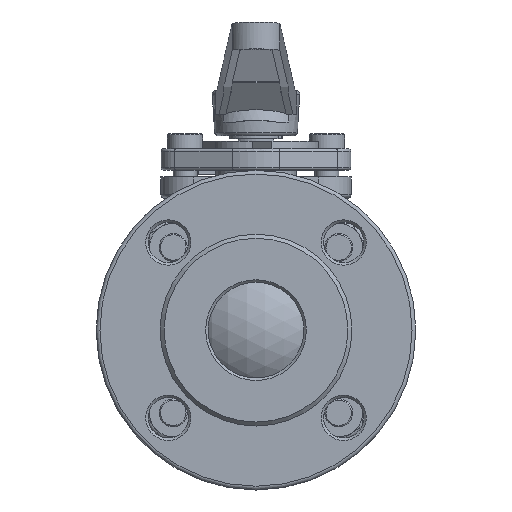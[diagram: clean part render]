
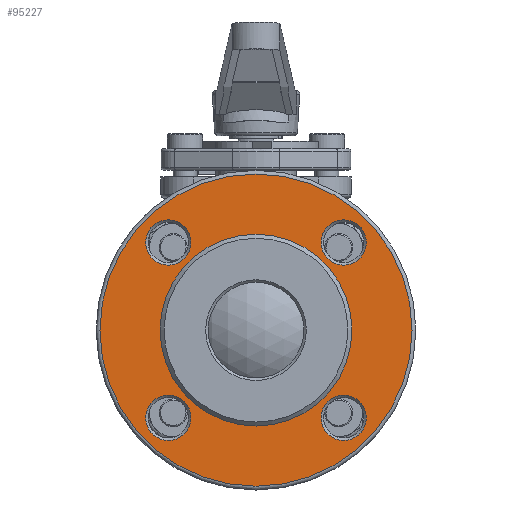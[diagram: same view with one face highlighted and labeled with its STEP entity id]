
A CAD part, left-side view. The second image highlights one B-rep face of the part: STEP entity #95227.
In plain terms, the highlighted planar face has unit normal (-1, 0, 0).
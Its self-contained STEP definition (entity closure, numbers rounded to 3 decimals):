
#95131 = TOROIDAL_SURFACE('',#95132,62.,1.5);
#95132 = AXIS2_PLACEMENT_3D('',#95133,#95134,#95135);
#95133 = CARTESIAN_POINT('',(-80.6,-31.8,-31.8));
#95134 = DIRECTION('',(-1.,0.,0.));
#95135 = DIRECTION('',(0.,0.,-1.));
#95168 = EDGE_CURVE('',#95169,#95169,#95171,.T.);
#95169 = VERTEX_POINT('',#95170);
#95170 = CARTESIAN_POINT('',(-82.1,-31.8,-93.8));
#95171 = SURFACE_CURVE('',#95172,(#95177,#95184),.PCURVE_S1.);
#95172 = CIRCLE('',#95173,62.);
#95173 = AXIS2_PLACEMENT_3D('',#95174,#95175,#95176);
#95174 = CARTESIAN_POINT('',(-82.1,-31.8,-31.8));
#95175 = DIRECTION('',(-1.,0.,0.));
#95176 = DIRECTION('',(0.,0.,-1.));
#95177 = PCURVE('',#95131,#95178);
#95178 = DEFINITIONAL_REPRESENTATION('',(#95179),#95183);
#95179 = LINE('',#95180,#95181);
#95180 = CARTESIAN_POINT('',(0.,7.854));
#95181 = VECTOR('',#95182,1.);
#95182 = DIRECTION('',(1.,0.));
#95183 = ( GEOMETRIC_REPRESENTATION_CONTEXT(2) 
PARAMETRIC_REPRESENTATION_CONTEXT() REPRESENTATION_CONTEXT('2D SPACE',''
  ) );
#95184 = PCURVE('',#95185,#95190);
#95185 = PLANE('',#95186);
#95186 = AXIS2_PLACEMENT_3D('',#95187,#95188,#95189);
#95187 = CARTESIAN_POINT('',(-82.1,-31.8,30.2));
#95188 = DIRECTION('',(1.,0.,0.));
#95189 = DIRECTION('',(0.,0.,1.));
#95190 = DEFINITIONAL_REPRESENTATION('',(#95191),#95199);
#95191 = ( BOUNDED_CURVE() B_SPLINE_CURVE(2,(#95192,#95193,#95194,#95195
    ,#95196,#95197,#95198),.UNSPECIFIED.,.T.,.F.) 
B_SPLINE_CURVE_WITH_KNOTS((1,2,2,2,2,1),(-2.094,0.,
    2.094,4.189,6.283,8.378),
.UNSPECIFIED.) CURVE() GEOMETRIC_REPRESENTATION_ITEM() 
RATIONAL_B_SPLINE_CURVE((1.,0.5,1.,0.5,1.,0.5,1.)) REPRESENTATION_ITEM(
  '') );
#95192 = CARTESIAN_POINT('',(-124.,0.));
#95193 = CARTESIAN_POINT('',(-124.,107.387));
#95194 = CARTESIAN_POINT('',(-31.,53.694));
#95195 = CARTESIAN_POINT('',(62.,0.));
#95196 = CARTESIAN_POINT('',(-31.,-53.694));
#95197 = CARTESIAN_POINT('',(-124.,-107.387));
#95198 = CARTESIAN_POINT('',(-124.,0.));
#95199 = ( GEOMETRIC_REPRESENTATION_CONTEXT(2) 
PARAMETRIC_REPRESENTATION_CONTEXT() REPRESENTATION_CONTEXT('2D SPACE',''
  ) );
#95227 = ADVANCED_FACE('',(#95228,#95259,#95290,#95321,#95352,#95387),
  #95185,.F.);
#95228 = FACE_BOUND('',#95229,.T.);
#95229 = EDGE_LOOP('',(#95230));
#95230 = ORIENTED_EDGE('',*,*,#95231,.T.);
#95231 = EDGE_CURVE('',#95232,#95232,#95234,.T.);
#95232 = VERTEX_POINT('',#95233);
#95233 = CARTESIAN_POINT('',(-82.1,-66.625,12.025));
#95234 = SURFACE_CURVE('',#95235,(#95240,#95247),.PCURVE_S1.);
#95235 = CIRCLE('',#95236,9.);
#95236 = AXIS2_PLACEMENT_3D('',#95237,#95238,#95239);
#95237 = CARTESIAN_POINT('',(-82.1,-66.625,3.025));
#95238 = DIRECTION('',(1.,0.,0.));
#95239 = DIRECTION('',(0.,0.,1.));
#95240 = PCURVE('',#95185,#95241);
#95241 = DEFINITIONAL_REPRESENTATION('',(#95242),#95246);
#95242 = CIRCLE('',#95243,9.);
#95243 = AXIS2_PLACEMENT_2D('',#95244,#95245);
#95244 = CARTESIAN_POINT('',(-27.175,34.825));
#95245 = DIRECTION('',(1.,0.));
#95246 = ( GEOMETRIC_REPRESENTATION_CONTEXT(2) 
PARAMETRIC_REPRESENTATION_CONTEXT() REPRESENTATION_CONTEXT('2D SPACE',''
  ) );
#95247 = PCURVE('',#95248,#95253);
#95248 = CONICAL_SURFACE('',#95249,9.,0.785);
#95249 = AXIS2_PLACEMENT_3D('',#95250,#95251,#95252);
#95250 = CARTESIAN_POINT('',(-82.1,-66.625,3.025));
#95251 = DIRECTION('',(-1.,0.,0.));
#95252 = DIRECTION('',(-0.,-1.,0.));
#95253 = DEFINITIONAL_REPRESENTATION('',(#95254),#95258);
#95254 = LINE('',#95255,#95256);
#95255 = CARTESIAN_POINT('',(7.854,0.));
#95256 = VECTOR('',#95257,1.);
#95257 = DIRECTION('',(-1.,0.));
#95258 = ( GEOMETRIC_REPRESENTATION_CONTEXT(2) 
PARAMETRIC_REPRESENTATION_CONTEXT() REPRESENTATION_CONTEXT('2D SPACE',''
  ) );
#95259 = FACE_BOUND('',#95260,.T.);
#95260 = EDGE_LOOP('',(#95261));
#95261 = ORIENTED_EDGE('',*,*,#95262,.T.);
#95262 = EDGE_CURVE('',#95263,#95263,#95265,.T.);
#95263 = VERTEX_POINT('',#95264);
#95264 = CARTESIAN_POINT('',(-82.1,3.025,12.025));
#95265 = SURFACE_CURVE('',#95266,(#95271,#95278),.PCURVE_S1.);
#95266 = CIRCLE('',#95267,9.);
#95267 = AXIS2_PLACEMENT_3D('',#95268,#95269,#95270);
#95268 = CARTESIAN_POINT('',(-82.1,3.025,3.025));
#95269 = DIRECTION('',(1.,0.,0.));
#95270 = DIRECTION('',(0.,0.,1.));
#95271 = PCURVE('',#95185,#95272);
#95272 = DEFINITIONAL_REPRESENTATION('',(#95273),#95277);
#95273 = CIRCLE('',#95274,9.);
#95274 = AXIS2_PLACEMENT_2D('',#95275,#95276);
#95275 = CARTESIAN_POINT('',(-27.175,-34.825));
#95276 = DIRECTION('',(1.,0.));
#95277 = ( GEOMETRIC_REPRESENTATION_CONTEXT(2) 
PARAMETRIC_REPRESENTATION_CONTEXT() REPRESENTATION_CONTEXT('2D SPACE',''
  ) );
#95278 = PCURVE('',#95279,#95284);
#95279 = CONICAL_SURFACE('',#95280,9.,0.785);
#95280 = AXIS2_PLACEMENT_3D('',#95281,#95282,#95283);
#95281 = CARTESIAN_POINT('',(-82.1,3.025,3.025));
#95282 = DIRECTION('',(-1.,0.,0.));
#95283 = DIRECTION('',(-0.,-1.,0.));
#95284 = DEFINITIONAL_REPRESENTATION('',(#95285),#95289);
#95285 = LINE('',#95286,#95287);
#95286 = CARTESIAN_POINT('',(7.854,0.));
#95287 = VECTOR('',#95288,1.);
#95288 = DIRECTION('',(-1.,0.));
#95289 = ( GEOMETRIC_REPRESENTATION_CONTEXT(2) 
PARAMETRIC_REPRESENTATION_CONTEXT() REPRESENTATION_CONTEXT('2D SPACE',''
  ) );
#95290 = FACE_BOUND('',#95291,.T.);
#95291 = EDGE_LOOP('',(#95292));
#95292 = ORIENTED_EDGE('',*,*,#95293,.T.);
#95293 = EDGE_CURVE('',#95294,#95294,#95296,.T.);
#95294 = VERTEX_POINT('',#95295);
#95295 = CARTESIAN_POINT('',(-82.1,-66.625,-57.625));
#95296 = SURFACE_CURVE('',#95297,(#95302,#95309),.PCURVE_S1.);
#95297 = CIRCLE('',#95298,9.);
#95298 = AXIS2_PLACEMENT_3D('',#95299,#95300,#95301);
#95299 = CARTESIAN_POINT('',(-82.1,-66.625,-66.625));
#95300 = DIRECTION('',(1.,0.,0.));
#95301 = DIRECTION('',(0.,0.,1.));
#95302 = PCURVE('',#95185,#95303);
#95303 = DEFINITIONAL_REPRESENTATION('',(#95304),#95308);
#95304 = CIRCLE('',#95305,9.);
#95305 = AXIS2_PLACEMENT_2D('',#95306,#95307);
#95306 = CARTESIAN_POINT('',(-96.825,34.825));
#95307 = DIRECTION('',(1.,0.));
#95308 = ( GEOMETRIC_REPRESENTATION_CONTEXT(2) 
PARAMETRIC_REPRESENTATION_CONTEXT() REPRESENTATION_CONTEXT('2D SPACE',''
  ) );
#95309 = PCURVE('',#95310,#95315);
#95310 = CONICAL_SURFACE('',#95311,9.,0.785);
#95311 = AXIS2_PLACEMENT_3D('',#95312,#95313,#95314);
#95312 = CARTESIAN_POINT('',(-82.1,-66.625,-66.625));
#95313 = DIRECTION('',(-1.,0.,0.));
#95314 = DIRECTION('',(-0.,-1.,0.));
#95315 = DEFINITIONAL_REPRESENTATION('',(#95316),#95320);
#95316 = LINE('',#95317,#95318);
#95317 = CARTESIAN_POINT('',(7.854,0.));
#95318 = VECTOR('',#95319,1.);
#95319 = DIRECTION('',(-1.,0.));
#95320 = ( GEOMETRIC_REPRESENTATION_CONTEXT(2) 
PARAMETRIC_REPRESENTATION_CONTEXT() REPRESENTATION_CONTEXT('2D SPACE',''
  ) );
#95321 = FACE_BOUND('',#95322,.T.);
#95322 = EDGE_LOOP('',(#95323));
#95323 = ORIENTED_EDGE('',*,*,#95324,.T.);
#95324 = EDGE_CURVE('',#95325,#95325,#95327,.T.);
#95325 = VERTEX_POINT('',#95326);
#95326 = CARTESIAN_POINT('',(-82.1,3.025,-57.625));
#95327 = SURFACE_CURVE('',#95328,(#95333,#95340),.PCURVE_S1.);
#95328 = CIRCLE('',#95329,9.);
#95329 = AXIS2_PLACEMENT_3D('',#95330,#95331,#95332);
#95330 = CARTESIAN_POINT('',(-82.1,3.025,-66.625));
#95331 = DIRECTION('',(1.,0.,0.));
#95332 = DIRECTION('',(0.,0.,1.));
#95333 = PCURVE('',#95185,#95334);
#95334 = DEFINITIONAL_REPRESENTATION('',(#95335),#95339);
#95335 = CIRCLE('',#95336,9.);
#95336 = AXIS2_PLACEMENT_2D('',#95337,#95338);
#95337 = CARTESIAN_POINT('',(-96.825,-34.825));
#95338 = DIRECTION('',(1.,0.));
#95339 = ( GEOMETRIC_REPRESENTATION_CONTEXT(2) 
PARAMETRIC_REPRESENTATION_CONTEXT() REPRESENTATION_CONTEXT('2D SPACE',''
  ) );
#95340 = PCURVE('',#95341,#95346);
#95341 = CONICAL_SURFACE('',#95342,9.,0.785);
#95342 = AXIS2_PLACEMENT_3D('',#95343,#95344,#95345);
#95343 = CARTESIAN_POINT('',(-82.1,3.025,-66.625));
#95344 = DIRECTION('',(-1.,0.,0.));
#95345 = DIRECTION('',(-0.,-1.,0.));
#95346 = DEFINITIONAL_REPRESENTATION('',(#95347),#95351);
#95347 = LINE('',#95348,#95349);
#95348 = CARTESIAN_POINT('',(7.854,0.));
#95349 = VECTOR('',#95350,1.);
#95350 = DIRECTION('',(-1.,0.));
#95351 = ( GEOMETRIC_REPRESENTATION_CONTEXT(2) 
PARAMETRIC_REPRESENTATION_CONTEXT() REPRESENTATION_CONTEXT('2D SPACE',''
  ) );
#95352 = FACE_BOUND('',#95353,.T.);
#95353 = EDGE_LOOP('',(#95354));
#95354 = ORIENTED_EDGE('',*,*,#95355,.F.);
#95355 = EDGE_CURVE('',#95356,#95356,#95358,.T.);
#95356 = VERTEX_POINT('',#95357);
#95357 = CARTESIAN_POINT('',(-82.1,-31.8,-69.9));
#95358 = SURFACE_CURVE('',#95359,(#95364,#95375),.PCURVE_S1.);
#95359 = CIRCLE('',#95360,38.1);
#95360 = AXIS2_PLACEMENT_3D('',#95361,#95362,#95363);
#95361 = CARTESIAN_POINT('',(-82.1,-31.8,-31.8));
#95362 = DIRECTION('',(-1.,0.,0.));
#95363 = DIRECTION('',(0.,0.,-1.));
#95364 = PCURVE('',#95185,#95365);
#95365 = DEFINITIONAL_REPRESENTATION('',(#95366),#95374);
#95366 = ( BOUNDED_CURVE() B_SPLINE_CURVE(2,(#95367,#95368,#95369,#95370
    ,#95371,#95372,#95373),.UNSPECIFIED.,.T.,.F.) 
B_SPLINE_CURVE_WITH_KNOTS((1,2,2,2,2,1),(-2.094,0.,
    2.094,4.189,6.283,8.378),
.UNSPECIFIED.) CURVE() GEOMETRIC_REPRESENTATION_ITEM() 
RATIONAL_B_SPLINE_CURVE((1.,0.5,1.,0.5,1.,0.5,1.)) REPRESENTATION_ITEM(
  '') );
#95367 = CARTESIAN_POINT('',(-100.1,0.));
#95368 = CARTESIAN_POINT('',(-100.1,65.991));
#95369 = CARTESIAN_POINT('',(-42.95,32.996));
#95370 = CARTESIAN_POINT('',(14.2,0.));
#95371 = CARTESIAN_POINT('',(-42.95,-32.996));
#95372 = CARTESIAN_POINT('',(-100.1,-65.991));
#95373 = CARTESIAN_POINT('',(-100.1,0.));
#95374 = ( GEOMETRIC_REPRESENTATION_CONTEXT(2) 
PARAMETRIC_REPRESENTATION_CONTEXT() REPRESENTATION_CONTEXT('2D SPACE',''
  ) );
#95375 = PCURVE('',#95376,#95381);
#95376 = CONICAL_SURFACE('',#95377,38.1,0.785);
#95377 = AXIS2_PLACEMENT_3D('',#95378,#95379,#95380);
#95378 = CARTESIAN_POINT('',(-82.1,-31.8,-31.8));
#95379 = DIRECTION('',(1.,0.,0.));
#95380 = DIRECTION('',(0.,0.,1.));
#95381 = DEFINITIONAL_REPRESENTATION('',(#95382),#95386);
#95382 = LINE('',#95383,#95384);
#95383 = CARTESIAN_POINT('',(9.425,0.));
#95384 = VECTOR('',#95385,1.);
#95385 = DIRECTION('',(-1.,0.));
#95386 = ( GEOMETRIC_REPRESENTATION_CONTEXT(2) 
PARAMETRIC_REPRESENTATION_CONTEXT() REPRESENTATION_CONTEXT('2D SPACE',''
  ) );
#95387 = FACE_BOUND('',#95388,.T.);
#95388 = EDGE_LOOP('',(#95389));
#95389 = ORIENTED_EDGE('',*,*,#95168,.T.);
